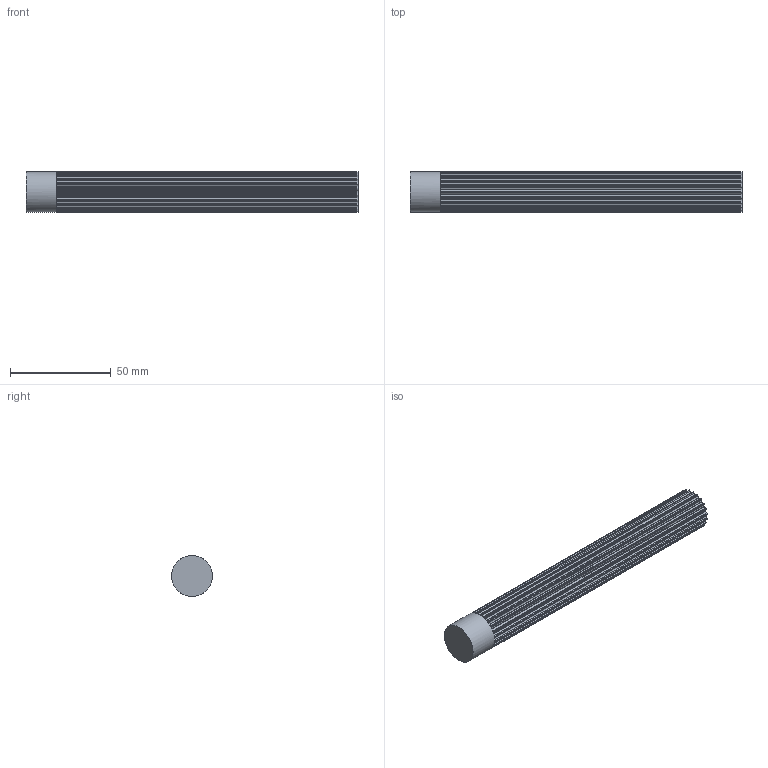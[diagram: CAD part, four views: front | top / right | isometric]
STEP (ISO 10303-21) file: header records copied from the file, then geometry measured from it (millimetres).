
FILE_DESCRIPTION( ( 'STEP AP214' ), '1' );
FILE_NAME( 'C:/Users/StangenbergN/Desktop/Steps Zahnriemenräder/K166_HTD-Zahnwellen/17092200.stp', '2019-06-06T09:34:00', ( '' ), ( '' ), ' ', 'PARTsolutions', ' ' );
FILE_SCHEMA( ( 'AUTOMOTIVE_DESIGN { 1 0 10303 214 1 1 1 1 }' ) );
Length unit declared in the file: millimetre
Products named in the file (1): _17092200
Bounding box: 165 x 20.25 x 20.25 mm (x, y, z)
Volume: 46208.5 mm3; surface area: 14597.5 mm2
Topology: 1 solids, 1 shells, 179 faces, 531 edges, 354 vertices
Faces by surface type: plane 90, cylinder 89
Full cylindrical faces by diameter (mm): 20.25 x1
Entity records: 7520 total; most frequent: DIRECTION 1110, CARTESIAN_POINT 1062, ORIENTED_EDGE 1058, EDGE_CURVE 529, AXIS2_PLACEMENT_3D 401, VERTEX_POINT 353, LINE 308, VECTOR 308
